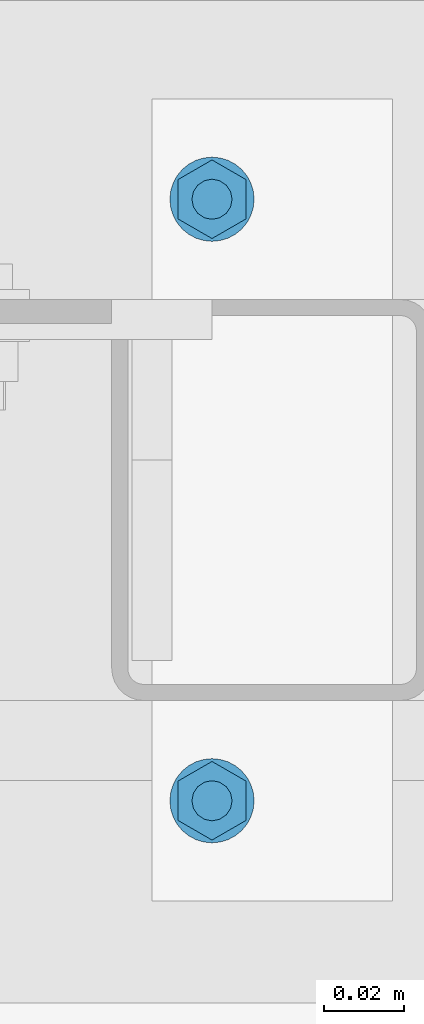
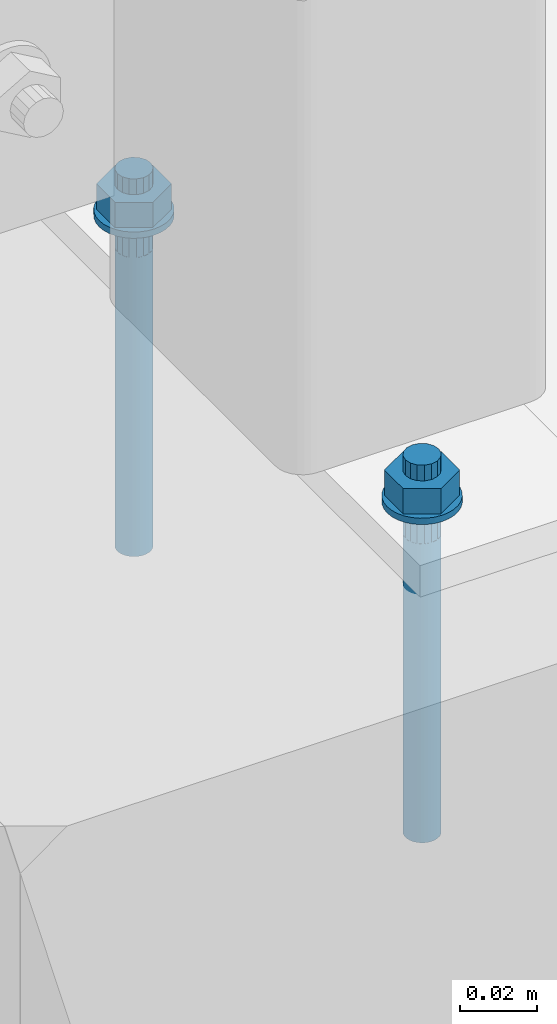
# One storey, part 246 of 476: 1 mechanical fastener.
"""IFC2X3 building model written with IfcOpenShell, lengths in millimetres."""

from ifc_helpers import new_model, entity, si_unit, converted_unit, origin_with_axes, place, context, project, spatial, faceted_brep, element, save


model = new_model("IFC2X3")

# Units and contexts
model_context = context("Model", 3, precision=1e-09, world=origin_with_axes())
ifc_project = project(units=[si_unit("LENGTHUNIT", "METRE", prefix="MILLI"), si_unit("AREAUNIT", "SQUARE_METRE"), si_unit("VOLUMEUNIT", "CUBIC_METRE"), converted_unit("PLANEANGLEUNIT", "DEGREE", entity("IfcPlaneAngleMeasure", 0.01745329), si_unit("PLANEANGLEUNIT", "RADIAN"), dimensions=[0, 0, 0, 0, 0, 0, 0])], contexts=[model_context])

# Site, building, storey
site_placement = place(None, origin_with_axes())
site = spatial("IfcSite", under=ifc_project, at=site_placement, Name="mKR Teilneubau & Sanierung BA1 - Ostfildern", CompositionType="ELEMENT")
building_placement = place(site_placement, origin_with_axes())
building = spatial("IfcBuilding", under=site, at=building_placement, Name="Struktur 1", CompositionType="ELEMENT")
storey_placement = place(building_placement, origin_with_axes())
storey = spatial("IfcBuildingStorey", under=building, at=storey_placement, Name="Default Storey", CompositionType="ELEMENT", Elevation=0.0)

# Mechanical fastener
mechanical_fastener_placement = place(None, origin_with_axes())
element("IfcMechanicalFastener", 1, at=mechanical_fastener_placement, inside=storey, ObjectType="Anchor_Bolt#1", NominalDiameter=10.0, NominalLength=120.0, context=model_context, shape_type="Brep", body=[
    faceted_brep([(22301.107764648, -4143.67387897, 525.0), (22301.107764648, -4143.67387897, 527.0), (22300.906010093, -4145.722327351, 527.0), (22300.906010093, -4145.722327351, 525.0), (22300.30849974, -4147.69205501, 527.0), (22300.30849974, -4147.69205501, 525.0), (22299.338195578, -4149.507366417, 527.0), (22299.338195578, -4149.507366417, 525.0), (22298.032385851, -4151.098500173, 527.0), (22298.032385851, -4151.098500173, 525.0), (22296.441252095, -4152.404309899, 527.0), (22296.441252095, -4152.404309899, 525.0), (22294.625940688, -4153.374614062, 527.0), (22294.625940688, -4153.374614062, 525.0), (22292.65621303, -4153.972124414, 527.0), (22292.65621303, -4153.972124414, 525.0), (22290.607764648, -4154.17387897, 527.0), (22290.607764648, -4154.17387897, 525.0), (22288.559316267, -4153.972124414, 527.0), (22288.559316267, -4153.972124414, 525.0), (22286.589588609, -4153.374614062, 527.0), (22286.589588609, -4153.374614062, 525.0), (22284.774277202, -4152.404309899, 527.0), (22284.774277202, -4152.404309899, 525.0), (22283.183143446, -4151.098500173, 527.0), (22283.183143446, -4151.098500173, 525.0), (22281.877333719, -4149.507366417, 527.0), (22281.877333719, -4149.507366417, 525.0), (22280.907029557, -4147.69205501, 527.0), (22280.907029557, -4147.69205501, 525.0), (22280.309519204, -4145.722327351, 527.0), (22280.309519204, -4145.722327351, 525.0), (22280.107764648, -4143.67387897, 527.0), (22280.107764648, -4143.67387897, 525.0), (22280.309519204, -4141.625430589, 527.0), (22280.309519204, -4141.625430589, 525.0), (22280.907029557, -4139.65570293, 527.0), (22280.907029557, -4139.65570293, 525.0), (22281.877333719, -4137.840391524, 527.0), (22281.877333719, -4137.840391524, 525.0), (22283.183143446, -4136.249257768, 527.0), (22283.183143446, -4136.249257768, 525.0), (22284.774277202, -4134.943448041, 527.0), (22284.774277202, -4134.943448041, 525.0), (22286.589588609, -4133.973143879, 527.0), (22286.589588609, -4133.973143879, 525.0), (22288.559316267, -4133.375633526, 527.0), (22288.559316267, -4133.375633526, 525.0), (22290.607764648, -4133.17387897, 527.0), (22290.607764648, -4133.17387897, 525.0), (22292.65621303, -4133.375633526, 527.0), (22292.65621303, -4133.375633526, 525.0), (22294.625940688, -4133.973143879, 527.0), (22294.625940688, -4133.973143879, 525.0), (22296.441252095, -4134.943448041, 527.0), (22296.441252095, -4134.943448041, 525.0), (22298.032385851, -4136.249257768, 527.0), (22298.032385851, -4136.249257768, 525.0), (22299.338195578, -4137.840391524, 527.0), (22299.338195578, -4137.840391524, 525.0), (22300.30849974, -4139.65570293, 527.0), (22300.30849974, -4139.65570293, 525.0), (22300.906010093, -4141.625430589, 527.0), (22300.906010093, -4141.625430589, 525.0)], [[[0, 1, 2, 3]], [[3, 2, 4, 5]], [[5, 4, 6, 7]], [[7, 6, 8, 9]], [[9, 8, 10, 11]], [[11, 10, 12, 13]], [[13, 12, 14, 15]], [[15, 14, 16, 17]], [[17, 16, 18, 19]], [[19, 18, 20, 21]], [[21, 20, 22, 23]], [[23, 22, 24, 25]], [[25, 24, 26, 27]], [[27, 26, 28, 29]], [[29, 28, 30, 31]], [[31, 30, 32, 33]], [[33, 32, 34, 35]], [[35, 34, 36, 37]], [[37, 36, 38, 39]], [[39, 38, 40, 41]], [[41, 40, 42, 43]], [[43, 42, 44, 45]], [[45, 44, 46, 47]], [[47, 46, 48, 49]], [[49, 48, 50, 51]], [[51, 50, 52, 53]], [[53, 52, 54, 55]], [[55, 54, 56, 57]], [[57, 56, 58, 59]], [[59, 58, 60, 61]], [[61, 60, 62, 63]], [[63, 62, 1, 0]], [[2, 1, 62, 60, 58, 56, 54, 52, 50, 48, 46, 44, 42, 40, 38, 36, 34, 32, 30, 28, 26, 24, 22, 20, 18, 16, 14, 12, 10, 8, 6, 4]], [[63, 0, 3, 5, 7, 9, 11, 13, 15, 17, 19, 21, 23, 25, 27, 29, 31, 33, 35, 37, 39, 41, 43, 45, 47, 49, 51, 53, 55, 57, 59, 61]]]),
    faceted_brep([(22301.107764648, -4293.67387897, 525.0), (22301.107764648, -4293.67387897, 527.0), (22300.906010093, -4295.722327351, 527.0), (22300.906010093, -4295.722327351, 525.0), (22300.30849974, -4297.69205501, 527.0), (22300.30849974, -4297.69205501, 525.0), (22299.338195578, -4299.507366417, 527.0), (22299.338195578, -4299.507366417, 525.0), (22298.032385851, -4301.098500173, 527.0), (22298.032385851, -4301.098500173, 525.0), (22296.441252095, -4302.404309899, 527.0), (22296.441252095, -4302.404309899, 525.0), (22294.625940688, -4303.374614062, 527.0), (22294.625940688, -4303.374614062, 525.0), (22292.65621303, -4303.972124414, 527.0), (22292.65621303, -4303.972124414, 525.0), (22290.607764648, -4304.17387897, 527.0), (22290.607764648, -4304.17387897, 525.0), (22288.559316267, -4303.972124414, 527.0), (22288.559316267, -4303.972124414, 525.0), (22286.589588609, -4303.374614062, 527.0), (22286.589588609, -4303.374614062, 525.0), (22284.774277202, -4302.404309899, 527.0), (22284.774277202, -4302.404309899, 525.0), (22283.183143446, -4301.098500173, 527.0), (22283.183143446, -4301.098500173, 525.0), (22281.877333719, -4299.507366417, 527.0), (22281.877333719, -4299.507366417, 525.0), (22280.907029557, -4297.69205501, 527.0), (22280.907029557, -4297.69205501, 525.0), (22280.309519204, -4295.722327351, 527.0), (22280.309519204, -4295.722327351, 525.0), (22280.107764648, -4293.67387897, 527.0), (22280.107764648, -4293.67387897, 525.0), (22280.309519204, -4291.625430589, 527.0), (22280.309519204, -4291.625430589, 525.0), (22280.907029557, -4289.65570293, 527.0), (22280.907029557, -4289.65570293, 525.0), (22281.877333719, -4287.840391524, 527.0), (22281.877333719, -4287.840391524, 525.0), (22283.183143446, -4286.249257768, 527.0), (22283.183143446, -4286.249257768, 525.0), (22284.774277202, -4284.943448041, 527.0), (22284.774277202, -4284.943448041, 525.0), (22286.589588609, -4283.973143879, 527.0), (22286.589588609, -4283.973143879, 525.0), (22288.559316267, -4283.375633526, 527.0), (22288.559316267, -4283.375633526, 525.0), (22290.607764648, -4283.17387897, 527.0), (22290.607764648, -4283.17387897, 525.0), (22292.65621303, -4283.375633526, 527.0), (22292.65621303, -4283.375633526, 525.0), (22294.625940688, -4283.973143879, 527.0), (22294.625940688, -4283.973143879, 525.0), (22296.441252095, -4284.943448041, 527.0), (22296.441252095, -4284.943448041, 525.0), (22298.032385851, -4286.249257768, 527.0), (22298.032385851, -4286.249257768, 525.0), (22299.338195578, -4287.840391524, 527.0), (22299.338195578, -4287.840391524, 525.0), (22300.30849974, -4289.65570293, 527.0), (22300.30849974, -4289.65570293, 525.0), (22300.906010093, -4291.625430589, 527.0), (22300.906010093, -4291.625430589, 525.0)], [[[0, 1, 2, 3]], [[3, 2, 4, 5]], [[5, 4, 6, 7]], [[7, 6, 8, 9]], [[9, 8, 10, 11]], [[11, 10, 12, 13]], [[13, 12, 14, 15]], [[15, 14, 16, 17]], [[17, 16, 18, 19]], [[19, 18, 20, 21]], [[21, 20, 22, 23]], [[23, 22, 24, 25]], [[25, 24, 26, 27]], [[27, 26, 28, 29]], [[29, 28, 30, 31]], [[31, 30, 32, 33]], [[33, 32, 34, 35]], [[35, 34, 36, 37]], [[37, 36, 38, 39]], [[39, 38, 40, 41]], [[41, 40, 42, 43]], [[43, 42, 44, 45]], [[45, 44, 46, 47]], [[47, 46, 48, 49]], [[49, 48, 50, 51]], [[51, 50, 52, 53]], [[53, 52, 54, 55]], [[55, 54, 56, 57]], [[57, 56, 58, 59]], [[59, 58, 60, 61]], [[61, 60, 62, 63]], [[63, 62, 1, 0]], [[2, 1, 62, 60, 58, 56, 54, 52, 50, 48, 46, 44, 42, 40, 38, 36, 34, 32, 30, 28, 26, 24, 22, 20, 18, 16, 14, 12, 10, 8, 6, 4]], [[63, 0, 3, 5, 7, 9, 11, 13, 15, 17, 19, 21, 23, 25, 27, 29, 31, 33, 35, 37, 39, 41, 43, 45, 47, 49, 51, 53, 55, 57, 59, 61]]]),
    faceted_brep([(22282.120715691, -4148.57387897, 535.0), (22282.120715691, -4148.57387897, 527.0), (22290.607764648, -4153.47387897, 527.0), (22290.607764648, -4153.47387897, 535.0), (22299.094813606, -4148.57387897, 527.0), (22299.094813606, -4148.57387897, 535.0), (22299.094813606, -4138.77387897, 527.0), (22299.094813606, -4138.77387897, 535.0), (22290.607764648, -4133.87387897, 527.0), (22290.607764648, -4133.87387897, 535.0), (22282.120715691, -4138.77387897, 527.0), (22282.120715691, -4138.77387897, 535.0)], [[[0, 1, 2, 3]], [[3, 2, 4, 5]], [[5, 4, 6, 7]], [[7, 6, 8, 9]], [[9, 8, 10, 11]], [[11, 10, 1, 0]], [[3, 5, 7, 9, 11, 0]], [[2, 1, 10, 8, 6, 4]]]),
    faceted_brep([(22282.120715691, -4298.57387897, 535.0), (22282.120715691, -4298.57387897, 527.0), (22290.607764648, -4303.47387897, 527.0), (22290.607764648, -4303.47387897, 535.0), (22299.094813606, -4298.57387897, 527.0), (22299.094813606, -4298.57387897, 535.0), (22299.094813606, -4288.77387897, 527.0), (22299.094813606, -4288.77387897, 535.0), (22290.607764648, -4283.87387897, 527.0), (22290.607764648, -4283.87387897, 535.0), (22282.120715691, -4288.77387897, 527.0), (22282.120715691, -4288.77387897, 535.0)], [[[0, 1, 2, 3]], [[3, 2, 4, 5]], [[5, 4, 6, 7]], [[7, 6, 8, 9]], [[9, 8, 10, 11]], [[11, 10, 1, 0]], [[3, 5, 7, 9, 11, 0]], [[2, 1, 10, 8, 6, 4]]]),
    faceted_brep([(22295.607764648, -4143.67387897, 535.0), (22295.607764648, -4143.67387897, 540.0), (22295.227162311, -4145.587296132, 540.0), (22295.227162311, -4145.587296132, 535.0), (22294.143298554, -4147.209412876, 540.0), (22294.143298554, -4147.209412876, 535.0), (22292.52118181, -4148.293276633, 540.0), (22292.52118181, -4148.293276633, 535.0), (22290.607764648, -4148.67387897, 540.0), (22290.607764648, -4148.67387897, 535.0), (22288.694347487, -4148.293276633, 540.0), (22288.694347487, -4148.293276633, 535.0), (22287.072230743, -4147.209412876, 540.0), (22287.072230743, -4147.209412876, 535.0), (22285.988366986, -4145.587296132, 540.0), (22285.988366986, -4145.587296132, 535.0), (22285.607764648, -4143.67387897, 540.0), (22285.607764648, -4143.67387897, 535.0), (22285.988366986, -4141.760461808, 540.0), (22285.988366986, -4141.760461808, 535.0), (22287.072230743, -4140.138345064, 540.0), (22287.072230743, -4140.138345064, 535.0), (22288.694347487, -4139.054481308, 540.0), (22288.694347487, -4139.054481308, 535.0), (22290.607764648, -4138.67387897, 540.0), (22290.607764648, -4138.67387897, 535.0), (22292.52118181, -4139.054481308, 540.0), (22292.52118181, -4139.054481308, 535.0), (22294.143298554, -4140.138345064, 540.0), (22294.143298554, -4140.138345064, 535.0), (22295.227162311, -4141.760461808, 540.0), (22295.227162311, -4141.760461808, 535.0)], [[[0, 1, 2, 3]], [[3, 2, 4, 5]], [[5, 4, 6, 7]], [[7, 6, 8, 9]], [[9, 8, 10, 11]], [[11, 10, 12, 13]], [[13, 12, 14, 15]], [[15, 14, 16, 17]], [[17, 16, 18, 19]], [[19, 18, 20, 21]], [[21, 20, 22, 23]], [[23, 22, 24, 25]], [[25, 24, 26, 27]], [[27, 26, 28, 29]], [[29, 28, 30, 31]], [[31, 30, 1, 0]], [[2, 1, 30, 28, 26, 24, 22, 20, 18, 16, 14, 12, 10, 8, 6, 4]], [[31, 0, 3, 5, 7, 9, 11, 13, 15, 17, 19, 21, 23, 25, 27, 29]]]),
    faceted_brep([(22295.607764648, -4293.67387897, 535.0), (22295.607764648, -4293.67387897, 540.0), (22295.227162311, -4295.587296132, 540.0), (22295.227162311, -4295.587296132, 535.0), (22294.143298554, -4297.209412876, 540.0), (22294.143298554, -4297.209412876, 535.0), (22292.52118181, -4298.293276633, 540.0), (22292.52118181, -4298.293276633, 535.0), (22290.607764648, -4298.67387897, 540.0), (22290.607764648, -4298.67387897, 535.0), (22288.694347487, -4298.293276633, 540.0), (22288.694347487, -4298.293276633, 535.0), (22287.072230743, -4297.209412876, 540.0), (22287.072230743, -4297.209412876, 535.0), (22285.988366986, -4295.587296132, 540.0), (22285.988366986, -4295.587296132, 535.0), (22285.607764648, -4293.67387897, 540.0), (22285.607764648, -4293.67387897, 535.0), (22285.988366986, -4291.760461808, 540.0), (22285.988366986, -4291.760461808, 535.0), (22287.072230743, -4290.138345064, 540.0), (22287.072230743, -4290.138345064, 535.0), (22288.694347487, -4289.054481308, 540.0), (22288.694347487, -4289.054481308, 535.0), (22290.607764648, -4288.67387897, 540.0), (22290.607764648, -4288.67387897, 535.0), (22292.52118181, -4289.054481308, 540.0), (22292.52118181, -4289.054481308, 535.0), (22294.143298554, -4290.138345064, 540.0), (22294.143298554, -4290.138345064, 535.0), (22295.227162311, -4291.760461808, 540.0), (22295.227162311, -4291.760461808, 535.0)], [[[0, 1, 2, 3]], [[3, 2, 4, 5]], [[5, 4, 6, 7]], [[7, 6, 8, 9]], [[9, 8, 10, 11]], [[11, 10, 12, 13]], [[13, 12, 14, 15]], [[15, 14, 16, 17]], [[17, 16, 18, 19]], [[19, 18, 20, 21]], [[21, 20, 22, 23]], [[23, 22, 24, 25]], [[25, 24, 26, 27]], [[27, 26, 28, 29]], [[29, 28, 30, 31]], [[31, 30, 1, 0]], [[2, 1, 30, 28, 26, 24, 22, 20, 18, 16, 14, 12, 10, 8, 6, 4]], [[31, 0, 3, 5, 7, 9, 11, 13, 15, 17, 19, 21, 23, 25, 27, 29]]]),
    faceted_brep([(22295.607764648, -4143.67387897, 515.0), (22295.607764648, -4143.67387897, 525.0), (22295.227162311, -4145.587296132, 525.0), (22295.227162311, -4145.587296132, 515.0), (22294.143298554, -4147.209412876, 525.0), (22294.143298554, -4147.209412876, 515.0), (22292.52118181, -4148.293276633, 525.0), (22292.52118181, -4148.293276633, 515.0), (22290.607764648, -4148.67387897, 525.0), (22290.607764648, -4148.67387897, 515.0), (22288.694347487, -4148.293276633, 525.0), (22288.694347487, -4148.293276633, 515.0), (22287.072230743, -4147.209412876, 525.0), (22287.072230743, -4147.209412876, 515.0), (22285.988366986, -4145.587296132, 525.0), (22285.988366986, -4145.587296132, 515.0), (22285.607764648, -4143.67387897, 525.0), (22285.607764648, -4143.67387897, 515.0), (22285.988366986, -4141.760461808, 525.0), (22285.988366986, -4141.760461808, 515.0), (22287.072230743, -4140.138345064, 525.0), (22287.072230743, -4140.138345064, 515.0), (22288.694347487, -4139.054481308, 525.0), (22288.694347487, -4139.054481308, 515.0), (22290.607764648, -4138.67387897, 525.0), (22290.607764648, -4138.67387897, 515.0), (22292.52118181, -4139.054481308, 525.0), (22292.52118181, -4139.054481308, 515.0), (22294.143298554, -4140.138345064, 525.0), (22294.143298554, -4140.138345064, 515.0), (22295.227162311, -4141.760461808, 525.0), (22295.227162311, -4141.760461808, 515.0)], [[[0, 1, 2, 3]], [[3, 2, 4, 5]], [[5, 4, 6, 7]], [[7, 6, 8, 9]], [[9, 8, 10, 11]], [[11, 10, 12, 13]], [[13, 12, 14, 15]], [[15, 14, 16, 17]], [[17, 16, 18, 19]], [[19, 18, 20, 21]], [[21, 20, 22, 23]], [[23, 22, 24, 25]], [[25, 24, 26, 27]], [[27, 26, 28, 29]], [[29, 28, 30, 31]], [[31, 30, 1, 0]], [[2, 1, 30, 28, 26, 24, 22, 20, 18, 16, 14, 12, 10, 8, 6, 4]], [[31, 0, 3, 5, 7, 9, 11, 13, 15, 17, 19, 21, 23, 25, 27, 29]]]),
    faceted_brep([(22295.607764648, -4293.67387897, 515.0), (22295.607764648, -4293.67387897, 525.0), (22295.227162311, -4295.587296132, 525.0), (22295.227162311, -4295.587296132, 515.0), (22294.143298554, -4297.209412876, 525.0), (22294.143298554, -4297.209412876, 515.0), (22292.52118181, -4298.293276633, 525.0), (22292.52118181, -4298.293276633, 515.0), (22290.607764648, -4298.67387897, 525.0), (22290.607764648, -4298.67387897, 515.0), (22288.694347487, -4298.293276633, 525.0), (22288.694347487, -4298.293276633, 515.0), (22287.072230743, -4297.209412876, 525.0), (22287.072230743, -4297.209412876, 515.0), (22285.988366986, -4295.587296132, 525.0), (22285.988366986, -4295.587296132, 515.0), (22285.607764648, -4293.67387897, 525.0), (22285.607764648, -4293.67387897, 515.0), (22285.988366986, -4291.760461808, 525.0), (22285.988366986, -4291.760461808, 515.0), (22287.072230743, -4290.138345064, 525.0), (22287.072230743, -4290.138345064, 515.0), (22288.694347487, -4289.054481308, 525.0), (22288.694347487, -4289.054481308, 515.0), (22290.607764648, -4288.67387897, 525.0), (22290.607764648, -4288.67387897, 515.0), (22292.52118181, -4289.054481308, 525.0), (22292.52118181, -4289.054481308, 515.0), (22294.143298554, -4290.138345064, 525.0), (22294.143298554, -4290.138345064, 515.0), (22295.227162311, -4291.760461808, 525.0), (22295.227162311, -4291.760461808, 515.0)], [[[0, 1, 2, 3]], [[3, 2, 4, 5]], [[5, 4, 6, 7]], [[7, 6, 8, 9]], [[9, 8, 10, 11]], [[11, 10, 12, 13]], [[13, 12, 14, 15]], [[15, 14, 16, 17]], [[17, 16, 18, 19]], [[19, 18, 20, 21]], [[21, 20, 22, 23]], [[23, 22, 24, 25]], [[25, 24, 26, 27]], [[27, 26, 28, 29]], [[29, 28, 30, 31]], [[31, 30, 1, 0]], [[2, 1, 30, 28, 26, 24, 22, 20, 18, 16, 14, 12, 10, 8, 6, 4]], [[31, 0, 3, 5, 7, 9, 11, 13, 15, 17, 19, 21, 23, 25, 27, 29]]]),
    faceted_brep([(22295.607764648, -4143.67387897, 420.0), (22295.607764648, -4143.67387897, 515.0), (22295.51169105, -4144.64933058, 515.0), (22295.51169105, -4144.64933058, 420.0), (22295.227162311, -4145.587296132, 515.0), (22295.227162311, -4145.587296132, 420.0), (22294.76511271, -4146.451730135, 515.0), (22294.76511271, -4146.451730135, 420.0), (22294.143298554, -4147.209412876, 515.0), (22294.143298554, -4147.209412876, 420.0), (22293.385615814, -4147.831227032, 515.0), (22293.385615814, -4147.831227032, 420.0), (22292.52118181, -4148.293276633, 515.0), (22292.52118181, -4148.293276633, 420.0), (22291.583216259, -4148.577805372, 515.0), (22291.583216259, -4148.577805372, 420.0), (22290.607764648, -4148.67387897, 515.0), (22290.607764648, -4148.67387897, 420.0), (22289.632313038, -4148.577805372, 515.0), (22289.632313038, -4148.577805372, 420.0), (22288.694347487, -4148.293276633, 515.0), (22288.694347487, -4148.293276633, 420.0), (22287.829913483, -4147.831227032, 515.0), (22287.829913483, -4147.831227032, 420.0), (22287.072230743, -4147.209412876, 515.0), (22287.072230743, -4147.209412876, 420.0), (22286.450416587, -4146.451730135, 515.0), (22286.450416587, -4146.451730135, 420.0), (22285.988366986, -4145.587296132, 515.0), (22285.988366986, -4145.587296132, 420.0), (22285.703838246, -4144.64933058, 515.0), (22285.703838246, -4144.64933058, 420.0), (22285.607764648, -4143.67387897, 515.0), (22285.607764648, -4143.67387897, 420.0), (22285.703838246, -4142.69842736, 515.0), (22285.703838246, -4142.69842736, 420.0), (22285.988366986, -4141.760461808, 515.0), (22285.988366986, -4141.760461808, 420.0), (22286.450416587, -4140.896027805, 515.0), (22286.450416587, -4140.896027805, 420.0), (22287.072230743, -4140.138345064, 515.0), (22287.072230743, -4140.138345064, 420.0), (22287.829913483, -4139.516530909, 515.0), (22287.829913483, -4139.516530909, 420.0), (22288.694347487, -4139.054481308, 515.0), (22288.694347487, -4139.054481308, 420.0), (22289.632313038, -4138.769952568, 515.0), (22289.632313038, -4138.769952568, 420.0), (22290.607764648, -4138.67387897, 515.0), (22290.607764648, -4138.67387897, 420.0), (22291.583216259, -4138.769952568, 515.0), (22291.583216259, -4138.769952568, 420.0), (22292.52118181, -4139.054481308, 515.0), (22292.52118181, -4139.054481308, 420.0), (22293.385615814, -4139.516530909, 515.0), (22293.385615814, -4139.516530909, 420.0), (22294.143298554, -4140.138345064, 515.0), (22294.143298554, -4140.138345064, 420.0), (22294.76511271, -4140.896027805, 515.0), (22294.76511271, -4140.896027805, 420.0), (22295.227162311, -4141.760461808, 515.0), (22295.227162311, -4141.760461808, 420.0), (22295.51169105, -4142.69842736, 515.0), (22295.51169105, -4142.69842736, 420.0)], [[[0, 1, 2, 3]], [[3, 2, 4, 5]], [[5, 4, 6, 7]], [[7, 6, 8, 9]], [[9, 8, 10, 11]], [[11, 10, 12, 13]], [[13, 12, 14, 15]], [[15, 14, 16, 17]], [[17, 16, 18, 19]], [[19, 18, 20, 21]], [[21, 20, 22, 23]], [[23, 22, 24, 25]], [[25, 24, 26, 27]], [[27, 26, 28, 29]], [[29, 28, 30, 31]], [[31, 30, 32, 33]], [[33, 32, 34, 35]], [[35, 34, 36, 37]], [[37, 36, 38, 39]], [[39, 38, 40, 41]], [[41, 40, 42, 43]], [[43, 42, 44, 45]], [[45, 44, 46, 47]], [[47, 46, 48, 49]], [[49, 48, 50, 51]], [[51, 50, 52, 53]], [[53, 52, 54, 55]], [[55, 54, 56, 57]], [[57, 56, 58, 59]], [[59, 58, 60, 61]], [[61, 60, 62, 63]], [[63, 62, 1, 0]], [[2, 1, 62, 60, 58, 56, 54, 52, 50, 48, 46, 44, 42, 40, 38, 36, 34, 32, 30, 28, 26, 24, 22, 20, 18, 16, 14, 12, 10, 8, 6, 4]], [[63, 0, 3, 5, 7, 9, 11, 13, 15, 17, 19, 21, 23, 25, 27, 29, 31, 33, 35, 37, 39, 41, 43, 45, 47, 49, 51, 53, 55, 57, 59, 61]]]),
    faceted_brep([(22295.607764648, -4293.67387897, 420.0), (22295.607764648, -4293.67387897, 515.0), (22295.51169105, -4294.64933058, 515.0), (22295.51169105, -4294.64933058, 420.0), (22295.227162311, -4295.587296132, 515.0), (22295.227162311, -4295.587296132, 420.0), (22294.76511271, -4296.451730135, 515.0), (22294.76511271, -4296.451730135, 420.0), (22294.143298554, -4297.209412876, 515.0), (22294.143298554, -4297.209412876, 420.0), (22293.385615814, -4297.831227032, 515.0), (22293.385615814, -4297.831227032, 420.0), (22292.52118181, -4298.293276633, 515.0), (22292.52118181, -4298.293276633, 420.0), (22291.583216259, -4298.577805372, 515.0), (22291.583216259, -4298.577805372, 420.0), (22290.607764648, -4298.67387897, 515.0), (22290.607764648, -4298.67387897, 420.0), (22289.632313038, -4298.577805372, 515.0), (22289.632313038, -4298.577805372, 420.0), (22288.694347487, -4298.293276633, 515.0), (22288.694347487, -4298.293276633, 420.0), (22287.829913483, -4297.831227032, 515.0), (22287.829913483, -4297.831227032, 420.0), (22287.072230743, -4297.209412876, 515.0), (22287.072230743, -4297.209412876, 420.0), (22286.450416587, -4296.451730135, 515.0), (22286.450416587, -4296.451730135, 420.0), (22285.988366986, -4295.587296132, 515.0), (22285.988366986, -4295.587296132, 420.0), (22285.703838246, -4294.64933058, 515.0), (22285.703838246, -4294.64933058, 420.0), (22285.607764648, -4293.67387897, 515.0), (22285.607764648, -4293.67387897, 420.0), (22285.703838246, -4292.69842736, 515.0), (22285.703838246, -4292.69842736, 420.0), (22285.988366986, -4291.760461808, 515.0), (22285.988366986, -4291.760461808, 420.0), (22286.450416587, -4290.896027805, 515.0), (22286.450416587, -4290.896027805, 420.0), (22287.072230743, -4290.138345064, 515.0), (22287.072230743, -4290.138345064, 420.0), (22287.829913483, -4289.516530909, 515.0), (22287.829913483, -4289.516530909, 420.0), (22288.694347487, -4289.054481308, 515.0), (22288.694347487, -4289.054481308, 420.0), (22289.632313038, -4288.769952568, 515.0), (22289.632313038, -4288.769952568, 420.0), (22290.607764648, -4288.67387897, 515.0), (22290.607764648, -4288.67387897, 420.0), (22291.583216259, -4288.769952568, 515.0), (22291.583216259, -4288.769952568, 420.0), (22292.52118181, -4289.054481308, 515.0), (22292.52118181, -4289.054481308, 420.0), (22293.385615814, -4289.516530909, 515.0), (22293.385615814, -4289.516530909, 420.0), (22294.143298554, -4290.138345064, 515.0), (22294.143298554, -4290.138345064, 420.0), (22294.76511271, -4290.896027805, 515.0), (22294.76511271, -4290.896027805, 420.0), (22295.227162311, -4291.760461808, 515.0), (22295.227162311, -4291.760461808, 420.0), (22295.51169105, -4292.69842736, 515.0), (22295.51169105, -4292.69842736, 420.0)], [[[0, 1, 2, 3]], [[3, 2, 4, 5]], [[5, 4, 6, 7]], [[7, 6, 8, 9]], [[9, 8, 10, 11]], [[11, 10, 12, 13]], [[13, 12, 14, 15]], [[15, 14, 16, 17]], [[17, 16, 18, 19]], [[19, 18, 20, 21]], [[21, 20, 22, 23]], [[23, 22, 24, 25]], [[25, 24, 26, 27]], [[27, 26, 28, 29]], [[29, 28, 30, 31]], [[31, 30, 32, 33]], [[33, 32, 34, 35]], [[35, 34, 36, 37]], [[37, 36, 38, 39]], [[39, 38, 40, 41]], [[41, 40, 42, 43]], [[43, 42, 44, 45]], [[45, 44, 46, 47]], [[47, 46, 48, 49]], [[49, 48, 50, 51]], [[51, 50, 52, 53]], [[53, 52, 54, 55]], [[55, 54, 56, 57]], [[57, 56, 58, 59]], [[59, 58, 60, 61]], [[61, 60, 62, 63]], [[63, 62, 1, 0]], [[2, 1, 62, 60, 58, 56, 54, 52, 50, 48, 46, 44, 42, 40, 38, 36, 34, 32, 30, 28, 26, 24, 22, 20, 18, 16, 14, 12, 10, 8, 6, 4]], [[63, 0, 3, 5, 7, 9, 11, 13, 15, 17, 19, 21, 23, 25, 27, 29, 31, 33, 35, 37, 39, 41, 43, 45, 47, 49, 51, 53, 55, 57, 59, 61]]]),
])

save(model, "model.ifc")
